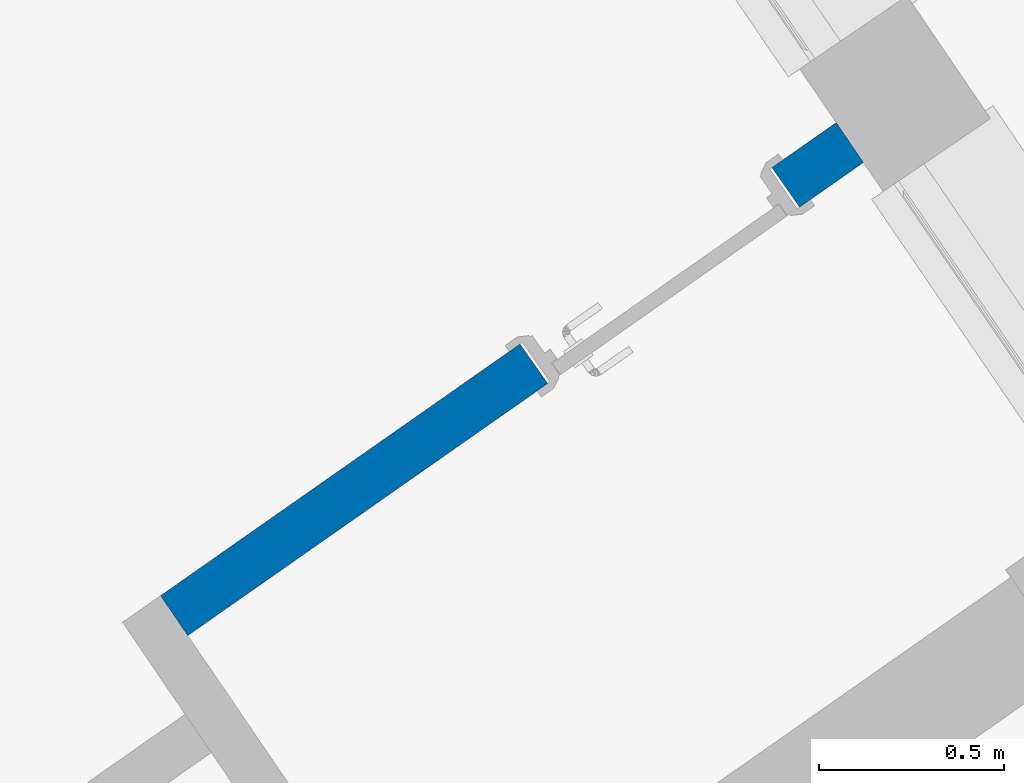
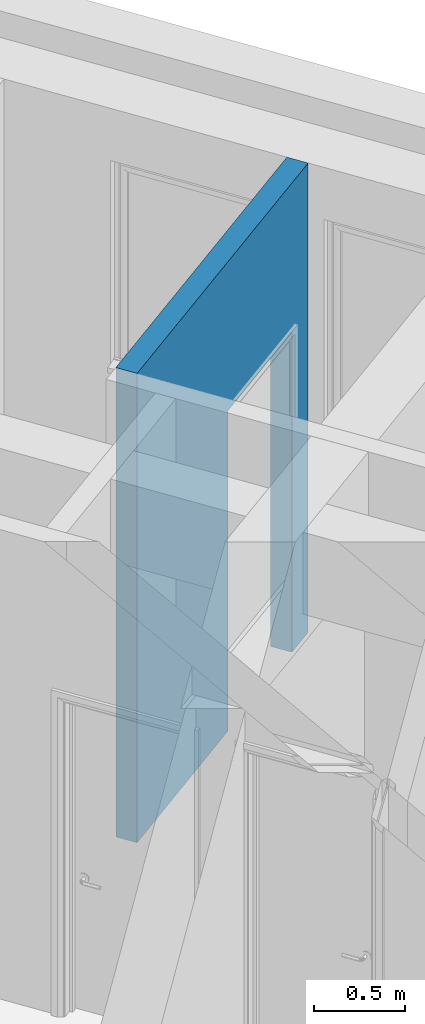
# One storey, part 55 of 112: 1 wall, 1 opening.
"""IFC2X3 building model written with IfcOpenShell, lengths in millimetres."""

from ifc_helpers import new_model, entity, si_unit, converted_unit, derived_unit, direction, frame, frame_2d, origin, place, context, subcontext, project, spatial, polyline, rectangle, outline, extrude, material, layer, layer_set, layer_usage, type_object, element, save


model = new_model("IFC2X3")

# Units and contexts
model_context = context("Model", 3, precision=0.01, world=origin(), true_north=direction((6.123031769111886e-17, 1.0)))
body_context = subcontext(model_context, "Body", "Model", "MODEL_VIEW")
ifc_project = project(units=[si_unit("LENGTHUNIT", "METRE", prefix="MILLI"), si_unit("AREAUNIT", "SQUARE_METRE"), si_unit("VOLUMEUNIT", "CUBIC_METRE"), converted_unit("PLANEANGLEUNIT", "DEGREE", entity("IfcRatioMeasure", 0.017453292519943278), si_unit("PLANEANGLEUNIT", "RADIAN"), dimensions=[0, 0, 0, 0, 0, 0, 0]), si_unit("MASSUNIT", "GRAM", prefix="KILO"), derived_unit("MASSDENSITYUNIT", [(si_unit("MASSUNIT", "GRAM", prefix="KILO"), 1), (si_unit("LENGTHUNIT", "METRE"), -3)]), derived_unit("MOMENTOFINERTIAUNIT", [(si_unit("LENGTHUNIT", "METRE"), 4)]), si_unit("TIMEUNIT", "SECOND"), si_unit("FREQUENCYUNIT", "HERTZ"), si_unit("THERMODYNAMICTEMPERATUREUNIT", "DEGREE_CELSIUS"), derived_unit("THERMALTRANSMITTANCEUNIT", [(si_unit("MASSUNIT", "GRAM", prefix="KILO"), 1), (si_unit("THERMODYNAMICTEMPERATUREUNIT", "KELVIN"), -1), (si_unit("TIMEUNIT", "SECOND"), -3)]), derived_unit("THERMALCONDUCTANCEUNIT", [(si_unit("MASSUNIT", "GRAM", prefix="KILO"), 1), (si_unit("LENGTHUNIT", "METRE"), 1), (si_unit("THERMODYNAMICTEMPERATUREUNIT", "KELVIN"), -1), (si_unit("TIMEUNIT", "SECOND"), -3)]), derived_unit("VOLUMETRICFLOWRATEUNIT", [(si_unit("LENGTHUNIT", "METRE"), 3), (si_unit("TIMEUNIT", "SECOND"), -1)]), derived_unit("MASSFLOWRATEUNIT", [(si_unit("MASSUNIT", "GRAM", prefix="KILO"), 1), (si_unit("TIMEUNIT", "SECOND"), -1)]), derived_unit("ROTATIONALFREQUENCYUNIT", [(si_unit("TIMEUNIT", "SECOND"), -1)]), si_unit("ELECTRICCURRENTUNIT", "AMPERE"), si_unit("ELECTRICVOLTAGEUNIT", "VOLT"), si_unit("POWERUNIT", "WATT"), converted_unit("FORCEUNIT", "KIP", entity("IfcRatioMeasure", 2.088543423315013e-05), si_unit("FORCEUNIT", "NEWTON"), dimensions=[1, 1, -2, 0, 0, 0, 0]), si_unit("ILLUMINANCEUNIT", "LUX"), si_unit("LUMINOUSFLUXUNIT", "LUMEN"), si_unit("LUMINOUSINTENSITYUNIT", "CANDELA"), derived_unit("USERDEFINED", [(si_unit("MASSUNIT", "GRAM", prefix="KILO"), -1), (si_unit("LENGTHUNIT", "METRE"), -2), (si_unit("TIMEUNIT", "SECOND"), 3), (si_unit("LUMINOUSFLUXUNIT", "LUMEN"), 1)]), derived_unit("USERDEFINED", [(si_unit("MASSUNIT", "GRAM", prefix="KILO"), 1), (si_unit("LENGTHUNIT", "METRE"), 3), (si_unit("TIMEUNIT", "SECOND"), -3), (si_unit("ELECTRICCURRENTUNIT", "AMPERE"), -2)]), derived_unit("USERDEFINED", [(si_unit("LENGTHUNIT", "METRE"), 2), (si_unit("TIMEUNIT", "SECOND"), -2)]), derived_unit("SOUNDPOWERUNIT", [(si_unit("MASSUNIT", "GRAM", prefix="KILO"), 1), (si_unit("LENGTHUNIT", "METRE"), 2), (si_unit("TIMEUNIT", "SECOND"), -3)]), derived_unit("SOUNDPRESSUREUNIT", [(si_unit("MASSUNIT", "GRAM", prefix="KILO"), 1), (si_unit("LENGTHUNIT", "METRE"), -1), (si_unit("TIMEUNIT", "SECOND"), -2)]), derived_unit("LINEARVELOCITYUNIT", [(si_unit("LENGTHUNIT", "METRE"), 1), (si_unit("TIMEUNIT", "SECOND"), -1)]), si_unit("PRESSUREUNIT", "PASCAL"), derived_unit("USERDEFINED", [(si_unit("LENGTHUNIT", "METRE"), -2), (si_unit("MASSUNIT", "GRAM", prefix="KILO"), 1), (si_unit("TIMEUNIT", "SECOND"), -2)]), derived_unit("LINEARFORCEUNIT", [(si_unit("MASSUNIT", "GRAM", prefix="KILO"), 1), (si_unit("LENGTHUNIT", "METRE"), 1), (si_unit("TIMEUNIT", "SECOND"), -2), (si_unit("LENGTHUNIT", "METRE"), -1)]), derived_unit("PLANARFORCEUNIT", [(si_unit("MASSUNIT", "GRAM", prefix="KILO"), 1), (si_unit("LENGTHUNIT", "METRE"), 1), (si_unit("TIMEUNIT", "SECOND"), -2), (si_unit("LENGTHUNIT", "METRE"), -2)]), derived_unit("SPECIFICHEATCAPACITYUNIT", [(si_unit("LENGTHUNIT", "METRE"), 2), (si_unit("TIMEUNIT", "SECOND"), -2), (si_unit("THERMODYNAMICTEMPERATUREUNIT", "KELVIN"), -1)]), derived_unit("VAPORPERMEABILITYUNIT", [(si_unit("TIMEUNIT", "SECOND"), 1), (si_unit("LENGTHUNIT", "METRE"), -1)]), derived_unit("DYNAMICVISCOSITYUNIT", [(si_unit("MASSUNIT", "GRAM", prefix="KILO"), 1), (si_unit("LENGTHUNIT", "METRE"), -1), (si_unit("TIMEUNIT", "SECOND"), -1)]), derived_unit("THERMALEXPANSIONCOEFFICIENTUNIT", [(si_unit("THERMODYNAMICTEMPERATUREUNIT", "KELVIN"), -1)])], contexts=[model_context])

# Site, building, storey
site_placement = place(None, frame((0.0, 0.0, 0.0), z_axis=(0.0, 0.0, 1.0), x_axis=(0.8191520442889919, 0.5735764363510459, 0.0)))
site = spatial("IfcSite", under=ifc_project, at=site_placement, Name="Default", CompositionType="ELEMENT")
building_placement = place(site_placement, origin())
building = spatial("IfcBuilding", under=site, at=building_placement, CompositionType="ELEMENT")
storey_placement = place(building_placement, frame((0.0, 0.0, -3600.0)))
storey = spatial("IfcBuildingStorey", under=building, at=storey_placement, Name="0.UG -3.60", CompositionType="ELEMENT", Elevation=-3600.0000000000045)

# Wall, opening
ifc_material = material(Name="Analytical Wall Surface_CJC")
ifc_layer = layer(ifc_material, 130.0)
ifc_layer_set = layer_set([ifc_layer], Name="Basic Wall:Wand_Innen_13")
ifc_layer_usage = layer_usage(ifc_layer_set, "AXIS2", "NEGATIVE", 65.0)
wall_type = type_object("IfcWallType", Name="Basic Wall:Wand_Innen_13", PredefinedType="STANDARD", material=ifc_layer_set)
wall_placement = place(storey_placement, frame((-207844.01679185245, 74756.3589143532, 300.0)))
wall = element("IfcWallStandardCase", 1, at=wall_placement, inside=storey, type_object=wall_type, material=ifc_layer_usage, Name="Basic Wall:Wand_Innen_13", ObjectType="Basic Wall:Wand_Innen_13", context=body_context, shape_type="SweptSolid", body=[
    extrude(outline(polyline([(0.0, -65.0), (2225.1663427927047, -65.0), (2226.8213289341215, 65.0), (1.6549804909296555, 65.0), (0.0, -65.0)])), origin(), (0.0, 0.0, 1.0), 3150.0),
])
opening_placement = place(wall_placement, frame((2015.2115347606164, 65.0, 0.0)))
element("IfcOpeningElement", 2, at=opening_placement, cuts=wall, Name="Doors_IntSgl:75x210:1", ObjectType="Opening", context=body_context, shape_type="SweptSolid", body=[
    extrude(rectangle(XDim=2150.000000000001, YDim=829.9999999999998, at=frame_2d((1075.0000000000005, 414.9999999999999), x_axis=(1.0, 0.0))), frame((0.0, 0.0, 0.0), z_axis=(0.0, -1.0, 0.0), x_axis=(0.0, 0.0, 1.0)), (0.0, 0.0, 1.0), 130.0),
])

save(model, "model.ifc")
